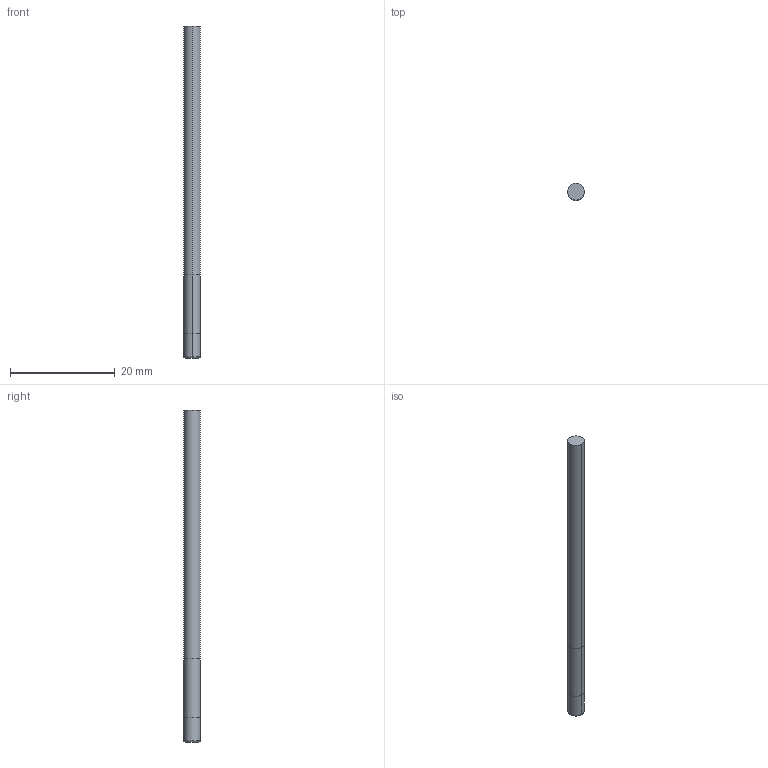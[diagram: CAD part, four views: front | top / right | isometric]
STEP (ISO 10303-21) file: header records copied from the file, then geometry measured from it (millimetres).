
FILE_DESCRIPTION((' '),'2;1');
FILE_NAME( '3MVS1250R.010N5AH.stp', '2026-01-21T19:26:37', (' '), ('--- Datakit www.datakit.com---'), ' Datakit CrossCadWare V2025.4 Sep 19 2025', 'Mastercam 2027', ' ');
FILE_SCHEMA(('AUTOMOTIVE_DESIGN { 1 0 10303 214 1 1 1 1 }'));
Length unit declared in the file: inch
Products named in the file (1): 3MVS1250R
Bounding box: 3.17 x 3.17 x 63.5 mm (x, y, z)
Volume: 502.6 mm3; surface area: 648.1 mm2
Topology: 1 solids, 1 shells, 10 faces, 18 edges, 10 vertices
Faces by surface type: cylinder 6, plane 2, torus 2
Entity records: 325 total; most frequent: DIRECTION 60, CARTESIAN_POINT 43, ORIENTED_EDGE 36, AXIS2_PLACEMENT_3D 27, EDGE_CURVE 18, CIRCLE 12, VERTEX_POINT 10, EDGE_LOOP 10
